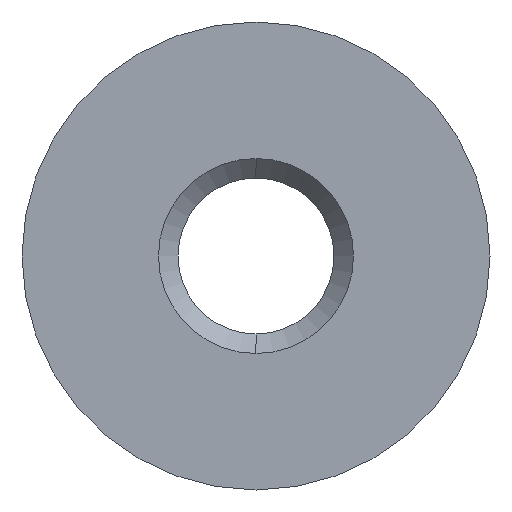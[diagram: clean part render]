
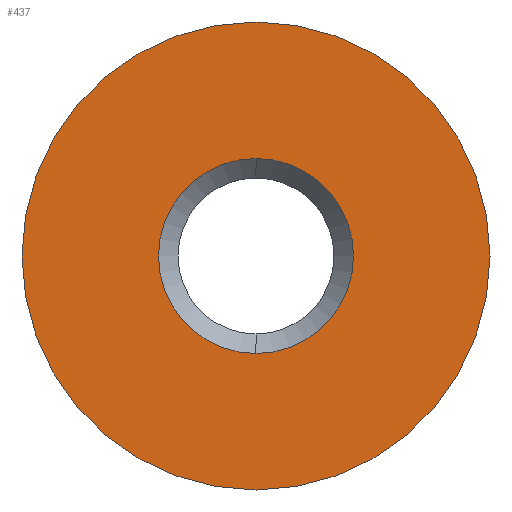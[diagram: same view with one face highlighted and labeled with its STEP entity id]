
A CAD part, left-side view. The second image highlights one B-rep face of the part: STEP entity #437.
In plain terms, the highlighted planar face has unit normal (-1, 0, 0).
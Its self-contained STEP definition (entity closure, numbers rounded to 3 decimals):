
#6 = VERTEX_POINT ( 'NONE', #153 ) ;
#42 = CARTESIAN_POINT ( 'NONE',  ( -4.61, 0., 0. ) ) ;
#52 = DIRECTION ( 'NONE',  ( -1., 0., 0. ) ) ;
#54 = AXIS2_PLACEMENT_3D ( 'NONE', #411, #1075, #576 ) ;
#59 = CIRCLE ( 'NONE', #283, 1. ) ;
#107 = CARTESIAN_POINT ( 'NONE',  ( -4.61, 0., -1. ) ) ;
#126 = DIRECTION ( 'NONE',  ( -1., 0., 0. ) ) ;
#145 = VERTEX_POINT ( 'NONE', #866 ) ;
#153 = CARTESIAN_POINT ( 'NONE',  ( -4.61, 0., -2.4 ) ) ;
#179 = ORIENTED_EDGE ( 'NONE', *, *, #407, .T. ) ;
#204 = CARTESIAN_POINT ( 'NONE',  ( -4.61, 0., 0. ) ) ;
#235 = DIRECTION ( 'NONE',  ( -1., 0., 0. ) ) ;
#283 = AXIS2_PLACEMENT_3D ( 'NONE', #669, #346, #1004 ) ;
#288 = CIRCLE ( 'NONE', #897, 2.4 ) ;
#299 = ORIENTED_EDGE ( 'NONE', *, *, #312, .T. ) ;
#312 = EDGE_CURVE ( 'NONE', #6, #145, #288, .T. ) ;
#333 = DIRECTION ( 'NONE',  ( 0., 0., 1. ) ) ;
#346 = DIRECTION ( 'NONE',  ( 1., 0., 0. ) ) ;
#372 = CIRCLE ( 'NONE', #513, 2.4 ) ;
#407 = EDGE_CURVE ( 'NONE', #877, #480, #59, .T. ) ;
#411 = CARTESIAN_POINT ( 'NONE',  ( -4.61, 0., 0. ) ) ;
#437 = ADVANCED_FACE ( 'NONE', ( #737, #741 ), #1072, .T. ) ;
#480 = VERTEX_POINT ( 'NONE', #107 ) ;
#482 = DIRECTION ( 'NONE',  ( 0., 0., 1. ) ) ;
#513 = AXIS2_PLACEMENT_3D ( 'NONE', #204, #52, #705 ) ;
#576 = DIRECTION ( 'NONE',  ( 0., 0., 1. ) ) ;
#581 = ORIENTED_EDGE ( 'NONE', *, *, #840, .T. ) ;
#585 = CARTESIAN_POINT ( 'NONE',  ( -4.61, 0., 0. ) ) ;
#628 = CIRCLE ( 'NONE', #54, 1. ) ;
#631 = EDGE_LOOP ( 'NONE', ( #179, #581 ) ) ;
#669 = CARTESIAN_POINT ( 'NONE',  ( -4.61, 0., 0. ) ) ;
#674 = EDGE_CURVE ( 'NONE', #145, #6, #372, .T. ) ;
#705 = DIRECTION ( 'NONE',  ( 0., 0., 1. ) ) ;
#716 = EDGE_LOOP ( 'NONE', ( #299, #739 ) ) ;
#737 = FACE_BOUND ( 'NONE', #631, .T. ) ;
#739 = ORIENTED_EDGE ( 'NONE', *, *, #674, .T. ) ;
#741 = FACE_OUTER_BOUND ( 'NONE', #716, .T. ) ;
#840 = EDGE_CURVE ( 'NONE', #480, #877, #628, .T. ) ;
#866 = CARTESIAN_POINT ( 'NONE',  ( -4.61, 0., 2.4 ) ) ;
#877 = VERTEX_POINT ( 'NONE', #1065 ) ;
#897 = AXIS2_PLACEMENT_3D ( 'NONE', #42, #126, #482 ) ;
#944 = AXIS2_PLACEMENT_3D ( 'NONE', #585, #235, #333 ) ;
#1004 = DIRECTION ( 'NONE',  ( 0., 0., 1. ) ) ;
#1065 = CARTESIAN_POINT ( 'NONE',  ( -4.61, 0., 1. ) ) ;
#1072 = PLANE ( 'NONE',  #944 ) ;
#1075 = DIRECTION ( 'NONE',  ( 1., 0., 0. ) ) ;
